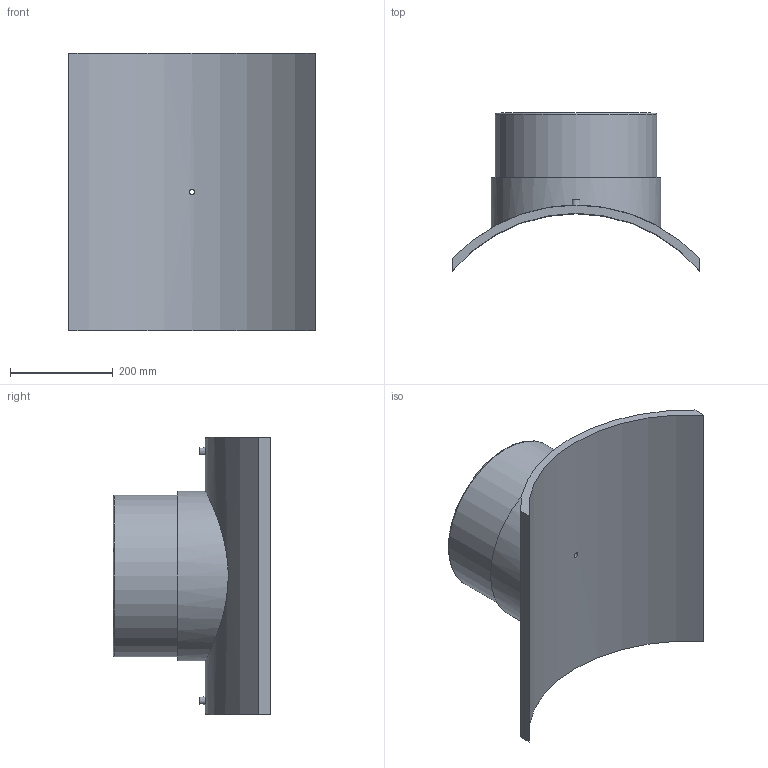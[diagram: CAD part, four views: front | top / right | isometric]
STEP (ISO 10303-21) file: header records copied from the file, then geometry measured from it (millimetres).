
FILE_DESCRIPTION(/* description */ ('PLASSON BRANCH SADDLE 630x315'),/* implementation_level */ '2;1');
FILE_NAME(/* name */ 'C:\Dropbox\KIMPROJECTS-Inventor 2019\99-16-3568-Processing\ElectroFusion Fittings\495803\stp\495803630315T.stp',/* time_stamp */ '2024-04-04T11:49:38+02:00',/* author */ ('KIM'),/* organization */ (''),/* preprocessor_version */ 'ST-DEVELOPER v17.2',/* originating_system */ 'Autodesk Inventor 2019',/* authorisation */ '');
FILE_SCHEMA (('AUTOMOTIVE_DESIGN { 1 0 10303 214 3 1 1 }'));
Length unit declared in the file: millimetre
Products named in the file (1): 495803630315T
Bounding box: 481 x 307.57 x 540 mm (x, y, z)
Volume: 10791441.8 mm3; surface area: 990496 mm2
Topology: 1 solids, 1 shells, 29 faces, 60 edges, 43 vertices
Faces by surface type: plane 13, cylinder 12, torus 2, cone 2
Full cylindrical faces by diameter (mm): 4 x2, 9.6 x1, 10 x2, 16 x1, 252 x1, 315 x1, 330.75 x1
Entity records: 1094 total; most frequent: CARTESIAN_POINT 408, DIRECTION 139, ORIENTED_EDGE 120, EDGE_CURVE 60, AXIS2_PLACEMENT_3D 60, VERTEX_POINT 43, EDGE_LOOP 41, CIRCLE 30
